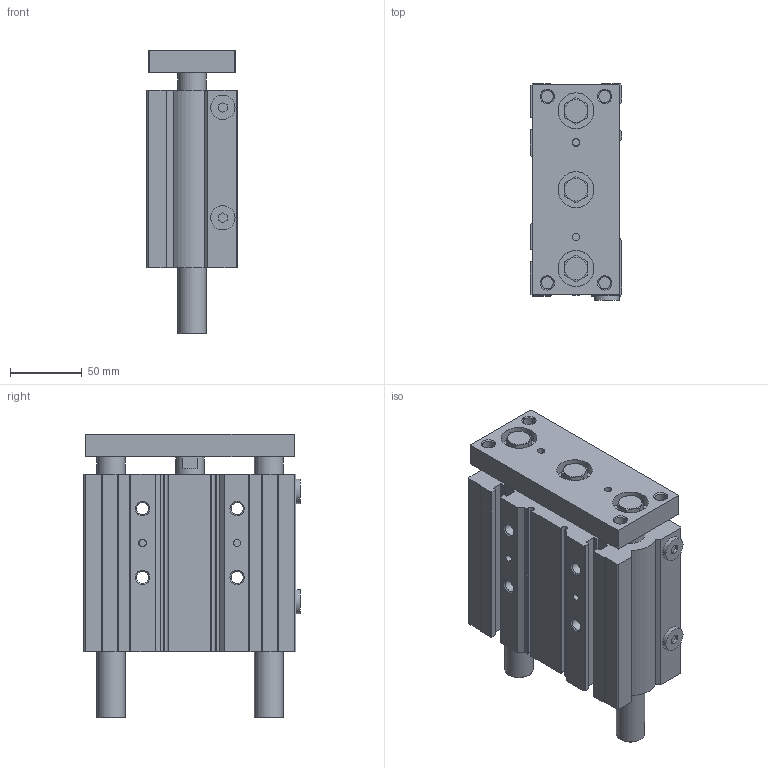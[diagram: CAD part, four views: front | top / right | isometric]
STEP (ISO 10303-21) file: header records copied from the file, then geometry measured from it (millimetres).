
FILE_DESCRIPTION( ( 'STEP AP214' ), '1' );
FILE_NAME( 'C:/Users/emc02044/Desktop/SGL SGM/SGL50X80-S.stp', '2026-07-24T02:51:05', ( 'License CC BY-ND 4.0' ), ( 'CADENAS' ), ' ', 'PARTsolutions', ' ' );
FILE_SCHEMA( ( 'AUTOMOTIVE_DESIGN { 1 0 10303 214 1 1 1 1 }' ) );
Length unit declared in the file: millimetre
Products named in the file (4): SGL50X80X0-S(); _SGL50x80-M(SG:Shaft cylinderL50X80X0-S:with magnet()dummy-0) 0; _SGL50x80-M(-0)-body; _SGL50x80-M(-0)-rod
Assembly tree (3 placements, depth 2):
  SGL50X80X0-S()
    _SGL50x80-M(SG:Shaft cylinderL50X80X0-S:with magnet()dummy-0) 0
    _SGL50x80-M(-0)-body
    _SGL50x80-M(-0)-rod
Bounding box: 64 x 151 x 198 mm (x, y, z)
Volume: 993733 mm3; surface area: 201607.3 mm2
Topology: 2 solids, 5 shells, 351 faces, 852 edges, 549 vertices
Faces by surface type: plane 179, cylinder 114, cone 58
Full cylindrical faces by diameter (mm): 5 x6, 8.376 x12, 8.7 x4, 11.445 x4, 14 x4, 17 x2, 20 x6, 25 x3, 30 x2, 32 x2, 46.8 x1, 50 x2
Entity records: 12874 total; most frequent: CARTESIAN_POINT 1992, DIRECTION 1684, ORIENTED_EDGE 1542, EDGE_CURVE 771, AXIS2_PLACEMENT_3D 648, VERTEX_POINT 537, EDGE_LOOP 478, FACE_OUTER_BOUND 399
